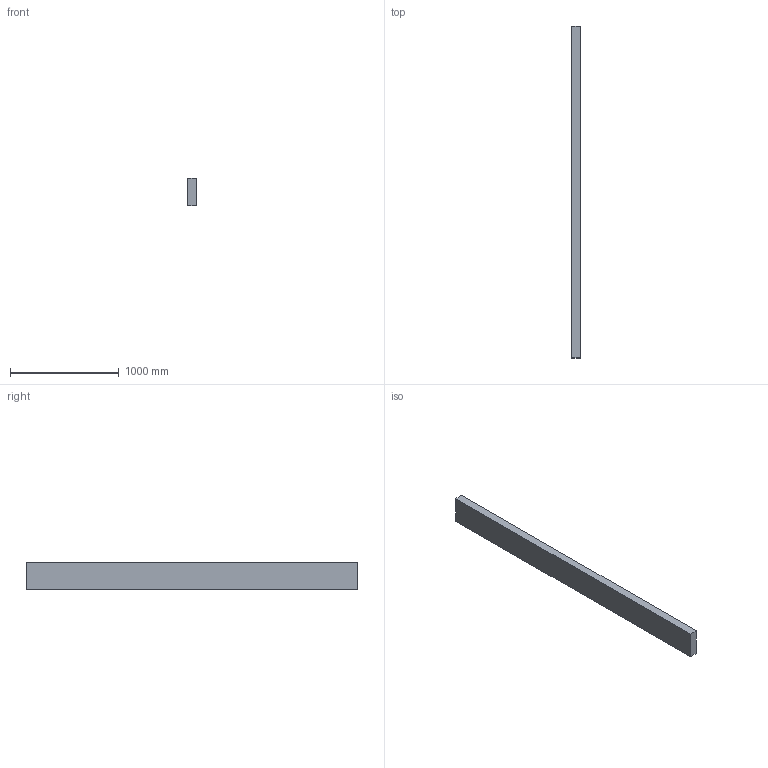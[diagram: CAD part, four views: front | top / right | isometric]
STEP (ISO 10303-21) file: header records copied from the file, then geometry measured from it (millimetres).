
FILE_DESCRIPTION(/* description */ (''),/* implementation_level */ '2;1');
FILE_NAME(/* name */ '3x10x120',/* time_stamp */ '2024-09-20T11:45:16-05:00',/* author */ (''),/* organization */ (''),/* preprocessor_version */ 'ST-DEVELOPER v19.2',/* originating_system */ 'Rhino 8.5',/* authorisation */ '');
FILE_SCHEMA (('CONFIG_CONTROL_DESIGN'));
Length unit declared in the file: inch
Products named in the file (1): Document
Bounding box: 76.2 x 3048 x 254 mm (x, y, z)
Volume: 58993430.4 mm3; surface area: 2051608.8 mm2
Topology: 1 solids, 1 shells, 6 faces, 12 edges, 8 vertices
Faces by surface type: plane 6
Entity records: 226 total; most frequent: CARTESIAN_POINT 40, ORIENTED_EDGE 24, EDGE_CURVE 12, B_SPLINE_CURVE_WITH_KNOTS 12, DIRECTION 10, VERTEX_POINT 8, AXIS2_PLACEMENT_3D 8, ORGANIZATION 7
